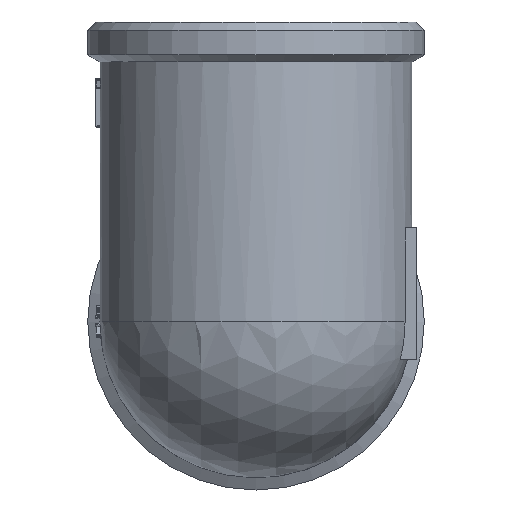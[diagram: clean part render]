
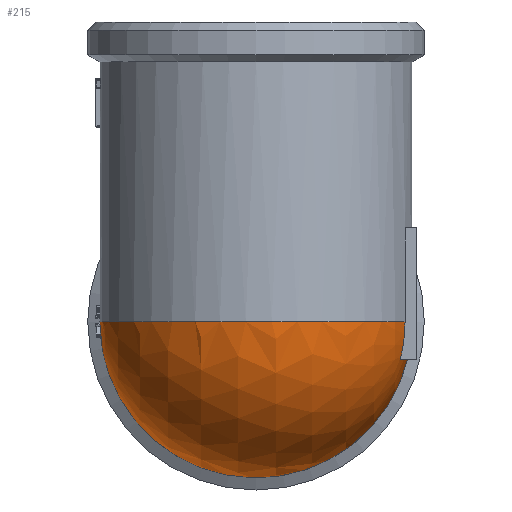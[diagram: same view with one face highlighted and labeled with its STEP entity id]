
A CAD part, front view. The second image highlights one B-rep face of the part: STEP entity #215.
In plain terms, the highlighted spherical face has radius 19 mm.
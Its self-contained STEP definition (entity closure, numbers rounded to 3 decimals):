
#215=ADVANCED_FACE('',(#1263),#1265,.T.);
#1263=FACE_BOUND('',#1264,.T.);
#1264=EDGE_LOOP('',(#2362,#2363,#2364,#2365));
#1265=SPHERICAL_SURFACE('',#1266,19.);
#1266=AXIS2_PLACEMENT_3D('',#1267,#1268,#1269);
#1267=CARTESIAN_POINT('',(0.,0.,0.));
#1268=DIRECTION('',(-1.,0.,0.));
#1269=DIRECTION('',(0.,0.,-1.));
#2362=ORIENTED_EDGE('',*,*,#3105,.F.);
#2363=ORIENTED_EDGE('',*,*,#3092,.F.);
#2364=ORIENTED_EDGE('',*,*,#3106,.F.);
#2365=ORIENTED_EDGE('',*,*,#3107,.F.);
#3092=EDGE_CURVE('',#3429,#3430,#3431,.T.);
#3105=EDGE_CURVE('',#3430,#3451,#3452,.F.);
#3106=EDGE_CURVE('',#3453,#3429,#3454,.T.);
#3107=EDGE_CURVE('',#3451,#3453,#3455,.F.);
#3429=VERTEX_POINT('',#4029);
#3430=VERTEX_POINT('',#4030);
#3431=CIRCLE('',#4031,18.156);
#3451=VERTEX_POINT('',#4106);
#3452=CIRCLE('',#4107,18.5);
#3453=VERTEX_POINT('',#4111);
#3454=CIRCLE('',#4112,19.);
#3455=CIRCLE('',#4116,19.);
#4029=CARTESIAN_POINT('',(18.156,-5.6,0.));
#4030=CARTESIAN_POINT('',(17.632,-5.6,-4.33));
#4031=AXIS2_PLACEMENT_3D('',#4032,#4033,#4034);
#4032=CARTESIAN_POINT('',(0.,-5.6,0.));
#4033=DIRECTION('',(0.,1.,0.));
#4034=DIRECTION('',(1.,0.,0.));
#4106=CARTESIAN_POINT('',(18.5,0.,-4.33));
#4107=AXIS2_PLACEMENT_3D('',#4108,#4109,#4110);
#4108=CARTESIAN_POINT('',(0.,0.,-4.33));
#4109=DIRECTION('',(0.,0.,-1.));
#4110=DIRECTION('',(1.,0.,0.));
#4111=CARTESIAN_POINT('',(-19.,0.,0.));
#4112=AXIS2_PLACEMENT_3D('',#4113,#4114,#4115);
#4113=CARTESIAN_POINT('',(0.,0.,0.));
#4114=DIRECTION('',(0.,0.,1.));
#4115=DIRECTION('',(-1.,0.,0.));
#4116=AXIS2_PLACEMENT_3D('',#4117,#4118,#4119);
#4117=CARTESIAN_POINT('',(0.,0.,0.));
#4118=DIRECTION('',(0.,-1.,0.));
#4119=DIRECTION('',(-1.,0.,0.));
